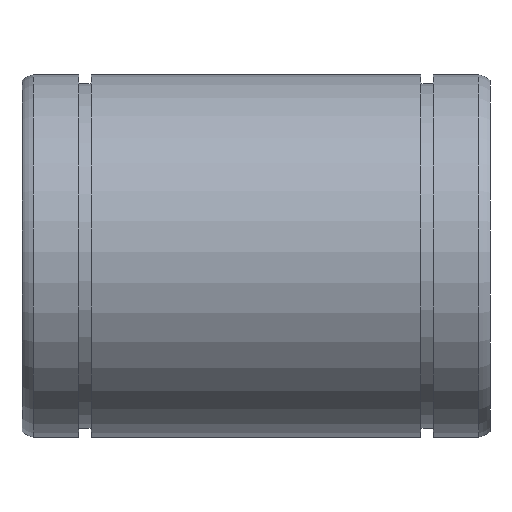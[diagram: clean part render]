
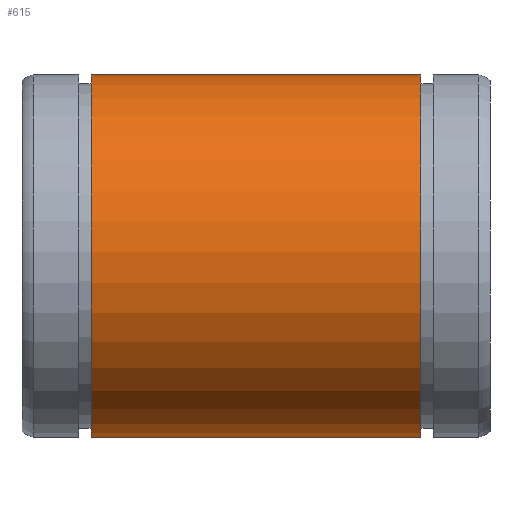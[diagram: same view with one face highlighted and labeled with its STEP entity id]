
A CAD part, front view. The second image highlights one B-rep face of the part: STEP entity #615.
In plain terms, the highlighted cylindrical face has radius 31 mm (diameter 62 mm), a partial arc.
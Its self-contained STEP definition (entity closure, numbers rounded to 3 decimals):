
#177=CARTESIAN_POINT('',(11.8,1.5,-30.964));
#178=VERTEX_POINT('',#177);
#185=CARTESIAN_POINT('',(68.2,1.5,-30.964));
#186=VERTEX_POINT('',#185);
#187=CARTESIAN_POINT('',(68.2,1.5,-30.964));
#188=DIRECTION('',(-1.0,0.0,0.0));
#189=VECTOR('',#188,56.4);
#190=LINE('',#187,#189);
#191=EDGE_CURVE('',#186,#178,#190,.T.);
#233=CARTESIAN_POINT('',(68.2,-1.5,-30.964));
#234=VERTEX_POINT('',#233);
#241=CARTESIAN_POINT('',(11.8,-1.5,-30.964));
#242=VERTEX_POINT('',#241);
#243=CARTESIAN_POINT('',(11.8,-1.5,-30.964));
#244=DIRECTION('',(1.0,0.0,0.0));
#245=VECTOR('',#244,56.4);
#246=LINE('',#243,#245);
#247=EDGE_CURVE('',#242,#234,#246,.T.);
#588=CARTESIAN_POINT('',(68.2,0.0,0.));
#589=DIRECTION('',(-1.0,0.0,0.0));
#590=DIRECTION('',(0.0,0.0,1.0));
#591=AXIS2_PLACEMENT_3D('',#588,#589,#590);
#592=CIRCLE('',#591,31.);
#593=EDGE_CURVE('',#234,#186,#592,.T.);
#598=CARTESIAN_POINT('',(40.,0.0,0.));
#599=DIRECTION('',(-1.0,0.0,0.));
#600=DIRECTION('',(0.0,0.0,1.0));
#601=AXIS2_PLACEMENT_3D('',#598,#599,#600);
#602=CYLINDRICAL_SURFACE('',#601,31.);
#603=ORIENTED_EDGE('',*,*,#247,.T.);
#604=ORIENTED_EDGE('',*,*,#593,.T.);
#605=ORIENTED_EDGE('',*,*,#191,.T.);
#606=CARTESIAN_POINT('',(11.8,0.0,0.));
#607=DIRECTION('',(-1.0,0.0,0.0));
#608=DIRECTION('',(0.0,0.0,1.0));
#609=AXIS2_PLACEMENT_3D('',#606,#607,#608);
#610=CIRCLE('',#609,31.);
#611=EDGE_CURVE('',#242,#178,#610,.T.);
#612=ORIENTED_EDGE('',*,*,#611,.F.);
#613=EDGE_LOOP('',(#603,#604,#605,#612));
#614=FACE_OUTER_BOUND('',#613,.T.);
#615=ADVANCED_FACE('',(#614),#602,.T.);
